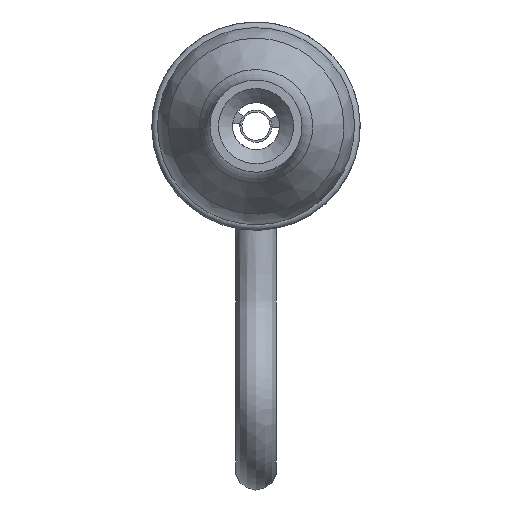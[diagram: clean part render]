
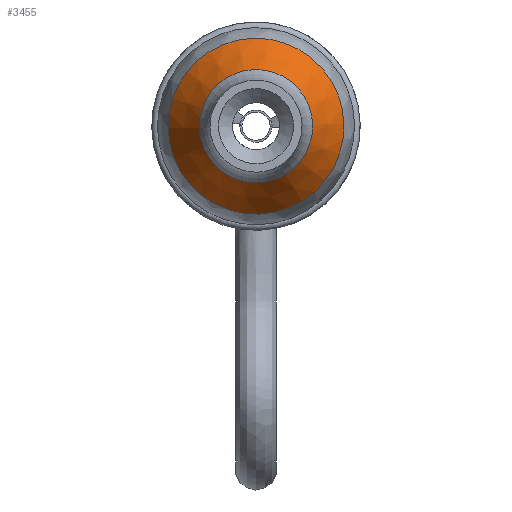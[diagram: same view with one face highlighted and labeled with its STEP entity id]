
A CAD part, left-side view. The second image highlights one B-rep face of the part: STEP entity #3455.
In plain terms, the highlighted conical face has half-angle 31.868 degrees and reference radius 6.521 mm.
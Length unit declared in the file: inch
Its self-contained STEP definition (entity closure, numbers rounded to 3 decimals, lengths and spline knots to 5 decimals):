
#41=CONICAL_SURFACE('',#3757,0.25675,0.556);
#306=LINE('',#8399,#532);
#532=VECTOR('',#4428,0.25675);
#800=FACE_OUTER_BOUND('',#1006,.T.);
#1006=EDGE_LOOP('',(#3052,#3053,#3054,#3055,#3056,#3057));
#1138=CIRCLE('',#3758,0.20118);
#1139=CIRCLE('',#3759,0.20118);
#1140=CIRCLE('',#3760,0.31232);
#1141=CIRCLE('',#3761,0.31232);
#1621=VERTEX_POINT('',#8394);
#1622=VERTEX_POINT('',#8395);
#1623=VERTEX_POINT('',#8398);
#1624=VERTEX_POINT('',#8400);
#2108=EDGE_CURVE('',#1621,#1622,#1138,.T.);
#2109=EDGE_CURVE('',#1622,#1621,#1139,.T.);
#2110=EDGE_CURVE('',#1622,#1623,#306,.T.);
#2111=EDGE_CURVE('',#1623,#1624,#1140,.T.);
#2112=EDGE_CURVE('',#1624,#1623,#1141,.T.);
#3052=ORIENTED_EDGE('',*,*,#2108,.F.);
#3053=ORIENTED_EDGE('',*,*,#2109,.F.);
#3054=ORIENTED_EDGE('',*,*,#2110,.T.);
#3055=ORIENTED_EDGE('',*,*,#2111,.T.);
#3056=ORIENTED_EDGE('',*,*,#2112,.T.);
#3057=ORIENTED_EDGE('',*,*,#2110,.F.);
#3455=ADVANCED_FACE('',(#800),#41,.T.);
#3757=AXIS2_PLACEMENT_3D('',#8393,#4422,#4423);
#3758=AXIS2_PLACEMENT_3D('',#8396,#4424,#4425);
#3759=AXIS2_PLACEMENT_3D('',#8397,#4426,#4427);
#3760=AXIS2_PLACEMENT_3D('',#8401,#4429,#4430);
#3761=AXIS2_PLACEMENT_3D('',#8402,#4431,#4432);
#4422=DIRECTION('center_axis',(-1.,0.,0.));
#4423=DIRECTION('ref_axis',(0.,0.,-1.));
#4424=DIRECTION('center_axis',(1.,0.,0.));
#4425=DIRECTION('ref_axis',(0.,0.,-1.));
#4426=DIRECTION('center_axis',(1.,0.,0.));
#4427=DIRECTION('ref_axis',(0.,0.,-1.));
#4428=DIRECTION('',(-0.849,0.,0.528));
#4429=DIRECTION('center_axis',(1.,0.,0.));
#4430=DIRECTION('ref_axis',(0.,0.,-1.));
#4431=DIRECTION('center_axis',(1.,0.,0.));
#4432=DIRECTION('ref_axis',(0.,0.,-1.));
#8393=CARTESIAN_POINT('Origin',(0.805,0.,0.));
#8394=CARTESIAN_POINT('',(0.89438,0.,-0.20118));
#8395=CARTESIAN_POINT('',(0.89438,0.,0.20118));
#8396=CARTESIAN_POINT('Origin',(0.89438,0.,0.));
#8397=CARTESIAN_POINT('Origin',(0.89438,0.,0.));
#8398=CARTESIAN_POINT('',(0.71562,0.,0.31232));
#8399=CARTESIAN_POINT('',(0.805,0.,0.25675));
#8400=CARTESIAN_POINT('',(0.71562,0.,-0.31232));
#8401=CARTESIAN_POINT('Origin',(0.71562,0.,0.));
#8402=CARTESIAN_POINT('Origin',(0.71562,0.,0.));
